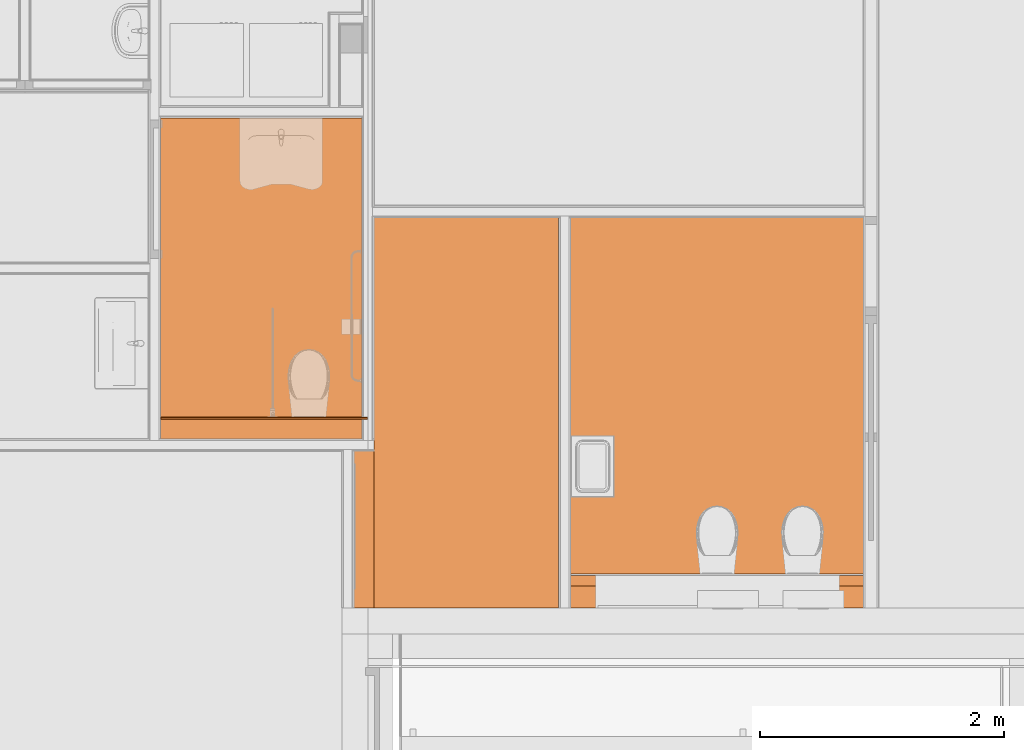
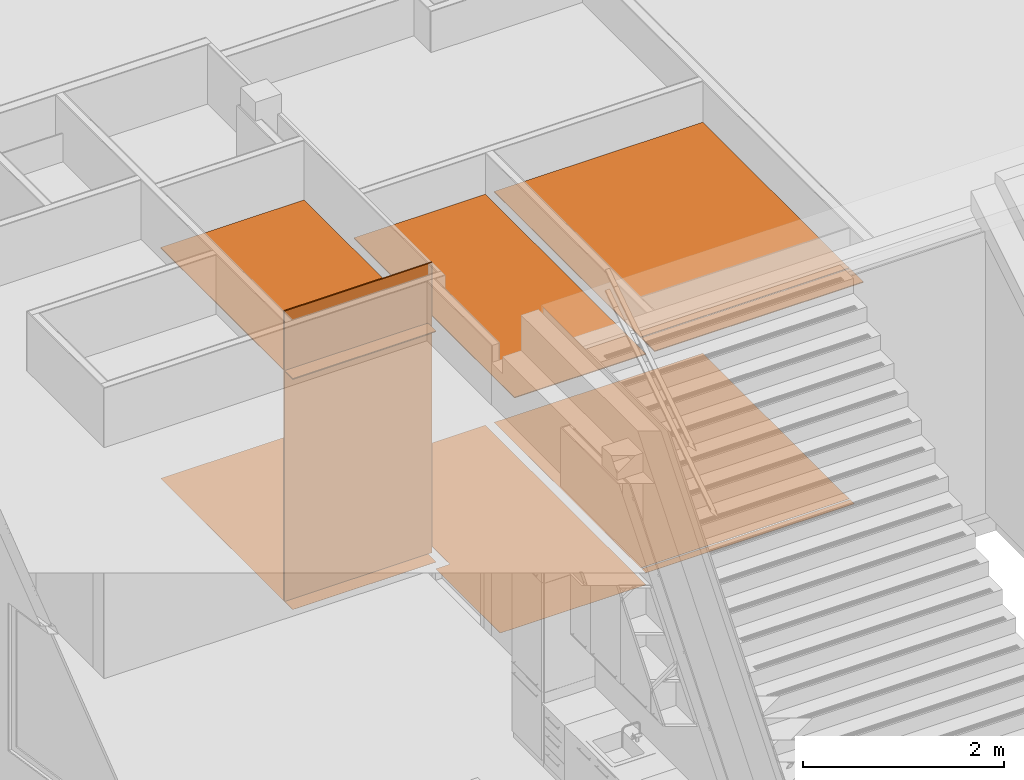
# One storey, part 152 of 167: 7 proxies.
"""IFC2X3 building model written with IfcOpenShell, lengths in millimetres."""

from ifc_helpers import new_model, entity, si_unit, converted_unit, derived_unit, money_unit, direction, frame, origin_with_axes, place, context, subcontext, project, spatial, faceted_brep, material, type_object, element, save


model = new_model("IFC2X3")

# Units and contexts
model_context = context("Model", 3, precision=0.01, world=origin_with_axes(), true_north=direction((0.0, 1.0)))
plan_context = context("Plan", 3, precision=0.01, world=origin_with_axes(), true_north=direction((0.0, 1.0)))
body_context = subcontext(model_context, "Body", "Model", "MODEL_VIEW")
ifc_project = project(units=[si_unit("LENGTHUNIT", "METRE", prefix="MILLI"), si_unit("AREAUNIT", "SQUARE_METRE"), si_unit("VOLUMEUNIT", "CUBIC_METRE"), converted_unit("PLANEANGLEUNIT", "DEGREE", entity("IfcPlaneAngleMeasure", 0.0174532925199), si_unit("PLANEANGLEUNIT", "RADIAN"), dimensions=[0, 0, 0, 0, 0, 0, 0]), si_unit("SOLIDANGLEUNIT", "STERADIAN"), money_unit("EUR"), converted_unit("TIMEUNIT", "Year", entity("IfcTimeMeasure", 31556926.0), si_unit("TIMEUNIT", "SECOND"), dimensions=[0, 0, 1, 0, 0, 0, 0]), si_unit("MASSUNIT", "GRAM", prefix="KILO"), si_unit("THERMODYNAMICTEMPERATUREUNIT", "DEGREE_CELSIUS"), si_unit("LUMINOUSINTENSITYUNIT", "LUMEN"), si_unit("ENERGYUNIT", "JOULE", prefix="MEGA"), derived_unit("THERMALCONDUCTANCEUNIT", [(si_unit("POWERUNIT", "WATT"), 1), (si_unit("LENGTHUNIT", "METRE"), -1), (si_unit("THERMODYNAMICTEMPERATUREUNIT", "KELVIN"), -1)]), derived_unit("SPECIFICHEATCAPACITYUNIT", [(si_unit("ENERGYUNIT", "JOULE"), 1), (si_unit("MASSUNIT", "GRAM", prefix="KILO"), -1), (si_unit("THERMODYNAMICTEMPERATUREUNIT", "KELVIN"), -1)]), derived_unit("MASSDENSITYUNIT", [(si_unit("MASSUNIT", "GRAM", prefix="KILO"), 1), (si_unit("VOLUMEUNIT", "CUBIC_METRE"), -1)])], contexts=[model_context, plan_context])

# Site, building, storey
site_placement = place(None, origin_with_axes())
site = spatial("IfcSite", under=ifc_project, at=site_placement, Name="Site", CompositionType="ELEMENT")
building_placement = place(site_placement, origin_with_axes())
building = spatial("IfcBuilding", under=site, at=building_placement, Name="Naam gebouw", CompositionType="ELEMENT")
storey_placement = place(building_placement, origin_with_axes())
storey = spatial("IfcBuildingStorey", under=building, at=storey_placement, Name="Begane grond", CompositionType="ELEMENT", Elevation=0.0)

# Proxies
ifc_material_1 = material(Name="ALG - BINNENAFWERKING")
building_element_proxy_type_1 = type_object("IfcBuildingElementProxyType", Name="ALG - BINNENAFWERKING 10", PredefinedType="NOTDEFINED")
proxy_1_placement = place(storey_placement, frame((27100.0000132, 32686.3528663, 2800.0), z_axis=(0.0, 0.0, 1.0), x_axis=(1.0, 0.0, 0.0)))
element("IfcBuildingElementProxy", 1, at=proxy_1_placement, inside=storey, type_object=building_element_proxy_type_1, material=ifc_material_1, Name="23__Vloer-x", context=body_context, shape_type="Brep", body=[
    faceted_brep([(1649.99998678, 0.0, 0.0), (1649.99998678, 162.670597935, 0.0), (1649.99998678, 162.670597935, 10.0), (1649.99998678, 0.0, 10.0), (0.0, 0.0, 0.0), (0.0, 162.715528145, 0.0), (0.0, 162.715528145, 10.0), (0.0, 0.0, 10.0)], [[[0, 1, 2, 3]], [[4, 5, 1, 0]], [[5, 6, 2, 1]], [[3, 2, 6, 7]], [[3, 7, 4, 0]], [[7, 6, 5, 4]]]),
    faceted_brep([(0.0, 2631.0471339, 10.0), (0.0, 177.715528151, 10.0), (1649.99998678, 177.67059794, 10.0), (1649.99998678, 2631.0471339, 10.0), (0.0, 2631.0471339, 0.0), (0.0, 177.715528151, 0.0), (1649.99998678, 177.67059794, 0.0), (1649.99998678, 2631.0471339, 0.0)], [[[0, 1, 2, 3]], [[4, 5, 1, 0]], [[5, 6, 2, 1]], [[3, 2, 6, 7]], [[0, 3, 7, 4]], [[7, 6, 5, 4]]]),
])
proxy_2_placement = place(storey_placement, frame((30462.9999994, 31299.9997738, 2800.0), z_axis=(0.0, 0.0, 1.0), x_axis=(1.0, 0.0, 0.0)))
element("IfcBuildingElementProxy", 2, at=proxy_2_placement, inside=storey, type_object=building_element_proxy_type_1, material=ifc_material_1, Name="23__Vloer-x", context=body_context, shape_type="Brep", body=[
    faceted_brep([(2399.78146709, 0.0, 0.0), (2399.78146709, 265.0, 0.0), (2399.78146709, 265.0, 10.0), (2399.78146709, 0.0, 10.0), (0.0, 0.0, 0.0), (0.0, 265.0, 0.0), (0.0, 265.0, 10.0), (0.0, 0.0, 10.0)], [[[0, 1, 2, 3]], [[4, 5, 1, 0]], [[5, 6, 2, 1]], [[3, 2, 6, 7]], [[4, 0, 3, 7]], [[7, 6, 5, 4]]]),
    faceted_brep([(0.0, 3199.99976075, 10.0), (0.0, 280.0, 10.0), (2399.78146709, 280.0, 10.0), (2399.78146709, 3199.99976075, 10.0), (0.0, 3199.99976075, 0.0), (0.0, 280.0, 0.0), (2399.78146709, 280.0, 0.0), (2399.78146709, 3199.99976075, 0.0)], [[[0, 1, 2, 3]], [[4, 5, 1, 0]], [[5, 6, 2, 1]], [[3, 2, 6, 7]], [[4, 0, 3, 7]], [[7, 6, 5, 4]]]),
])
proxy_3_placement = place(storey_placement, frame((28850.0, 31299.9997738, 2800.0), z_axis=(0.0, 0.0, 1.0), x_axis=(1.0, 0.0, 0.0)))
element("IfcBuildingElementProxy", 3, at=proxy_3_placement, inside=storey, type_object=building_element_proxy_type_1, material=ifc_material_1, Name="23__Vloer-x", context=body_context, shape_type="Brep", body=[
    faceted_brep([(0.0, 0.0, 10.0), (0.0, 0.0, 0.0), (1512.99999936, 0.0, 0.0), (1512.99999936, 0.0, 10.0), (0.0, 3199.99976075, 10.0), (0.0, 3199.99976075, 0.0), (1512.99999936, 3199.99976075, 0.0), (1512.99999936, 3199.99976075, 10.0)], [[[0, 1, 2, 3]], [[4, 5, 1, 0]], [[2, 1, 5, 6]], [[3, 2, 6, 7]], [[4, 0, 3, 7]], [[7, 6, 5, 4]]]),
])
ifc_material_2 = material(Name="_TenW_43_Flexx F15")
building_element_proxy_type_2 = type_object("IfcBuildingElementProxyType", Name="_TenW_43_Flexx F15 2", PredefinedType="NOTDEFINED")
proxy_4_placement = place(storey_placement, frame((30462.9999994, 31479.999817, 0.0), z_axis=(0.0, 0.0, 1.0), x_axis=(1.0, 0.0, 0.0)))
element("IfcBuildingElementProxy", 4, at=proxy_4_placement, inside=storey, type_object=building_element_proxy_type_2, material=ifc_material_2, Name="23__Vloer-x", context=body_context, shape_type="Brep", body=[
    faceted_brep([(2399.78146709, -4.51427091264e-05, 0.0), (2399.78146709, 84.9999568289, 0.0), (2399.78146709, 84.9999568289, 2.0), (2399.78146709, -4.51427091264e-05, 2.0), (0.0, 0.0, 0.0), (0.0, 84.9999568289, 0.0), (0.0, 84.9999568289, 2.0), (0.0, 0.0, 2.0)], [[[0, 1, 2, 3]], [[4, 5, 1, 0]], [[5, 6, 2, 1]], [[3, 2, 6, 7]], [[4, 0, 3, 7]], [[7, 6, 5, 4]]]),
    faceted_brep([(0.0, 3019.99971757, 2.0), (0.0, 99.9999568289, 2.0), (2399.78146709, 99.9999568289, 2.0), (2399.78146709, 3019.99971758, 2.0), (0.0, 3019.99971757, 0.0), (0.0, 99.9999568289, 0.0), (2399.78146709, 99.9999568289, 0.0), (2399.78146709, 3019.99971758, 0.0)], [[[0, 1, 2, 3]], [[4, 5, 1, 0]], [[5, 6, 2, 1]], [[3, 2, 6, 7]], [[4, 0, 3, 7]], [[7, 6, 5, 4]]]),
])
proxy_5_placement = place(storey_placement, frame((27099.9999799, 35317.400015, 0.0), z_axis=(0.0, 0.0, 1.0), x_axis=(1.0, 0.0, 0.0)))
element("IfcBuildingElementProxy", 5, at=proxy_5_placement, inside=storey, type_object=building_element_proxy_type_2, material=ifc_material_2, Name="23__Vloer-x", context=body_context, shape_type="Brep", body=[
    faceted_brep([(1650.00002009, -2631.0471487, 0.0), (1650.00002009, -2468.37655077, 0.0), (1650.00002009, -2468.37655077, 2.0), (1650.00002009, -2631.0471487, 2.0), (6.8003707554e-05, -2631.0471487, 0.0), (6.37980583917e-05, -2468.33162056, 0.0), (6.37980583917e-05, -2468.33162056, 2.0), (6.8003707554e-05, -2631.0471487, 2.0)], [[[0, 1, 2, 3]], [[4, 5, 1, 0]], [[5, 6, 2, 1]], [[3, 2, 6, 7]], [[3, 7, 4, 0]], [[7, 6, 5, 4]]]),
    faceted_brep([(0.0, 0.0, 2.0), (6.34103614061e-05, -2453.33162055, 2.0), (1650.00002009, -2453.37655076, 2.0), (1650.00002009, 0.0, 2.0), (0.0, 0.0, 0.0), (6.34103614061e-05, -2453.33162055, 0.0), (1650.00002009, -2453.37655076, 0.0), (1650.00002009, 0.0, 0.0)], [[[0, 1, 2, 3]], [[4, 5, 1, 0]], [[5, 6, 2, 1]], [[3, 2, 6, 7]], [[0, 3, 7, 4]], [[7, 6, 5, 4]]]),
])
ifc_material_3 = material(Name="_TenW_22_Gipsplaat watervast")
building_element_proxy_type_3 = type_object("IfcBuildingElementProxyType", Name="_TenW_22_Gipsvezelplaat watervast 15", PredefinedType="NOTDEFINED")
proxy_6_placement = place(storey_placement, frame((27021.1286319, 32864.0705421, 0.0), z_axis=(0.0, 0.0, 1.0), x_axis=(0.999999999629, -2.72304309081e-05, 0.0)))
element("IfcBuildingElementProxy", 6, at=proxy_6_placement, inside=storey, type_object=building_element_proxy_type_3, material=ifc_material_3, Name="22__Wand-x", context=body_context, shape_type="Brep", body=[
    faceted_brep([(78.8713814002, 0.0, 0.0), (78.8713814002, 0.0, 3530.0), (1774.89962255, 0.0, 3530.0), (1774.89962255, 0.0, 0.0), (78.8717898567, -15.0, 0.0), (78.8717898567, -15.0, 3530.0), (1774.89962255, -15.0, 3530.0), (1774.89962255, -15.0, 0.0)], [[[0, 1, 2, 3]], [[4, 5, 1, 0]], [[5, 6, 2, 1]], [[3, 2, 6, 7]], [[3, 7, 4, 0]], [[7, 6, 5, 4]]]),
])
ifc_material_4 = material(Name="_TenW_43_Marmoleum Salsa Verde")
building_element_proxy_type_4 = type_object("IfcBuildingElementProxyType", Name="_TenW_43_Marmoleum Salsa Verde 2", PredefinedType="NOTDEFINED")
proxy_7_placement = place(storey_placement, frame((28686.0, 31299.9997738, 0.0), z_axis=(0.0, 0.0, 1.0), x_axis=(1.0, 0.0, 0.0)))
element("IfcBuildingElementProxy", 7, at=proxy_7_placement, inside=storey, type_object=building_element_proxy_type_4, material=ifc_material_4, Name="23__Vloer-x", context=body_context, shape_type="Brep", body=[
    faceted_brep([(0.0, 0.0, 2.0), (0.0, 0.0, 0.0), (1676.99999936, 0.0, 0.0), (1676.99999936, 0.0, 2.0), (0.0, 1286.35309243, 2.0), (0.0, 1286.35309243, 0.0), (164.000000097, 1286.35309243, 0.0), (164.0, 3199.99976075, 0.0), (1676.99999936, 3199.99976075, 0.0), (1676.99999936, 3199.99976075, 2.0), (164.0, 3199.99976075, 2.0), (164.000000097, 1286.35309243, 2.0)], [[[0, 1, 2, 3]], [[4, 5, 1, 0]], [[2, 1, 5, 6, 7, 8]], [[3, 2, 8, 9]], [[4, 0, 3, 9, 10, 11]], [[11, 6, 5, 4]], [[10, 7, 6, 11]], [[9, 8, 7, 10]]]),
])

save(model, "model.ifc")
